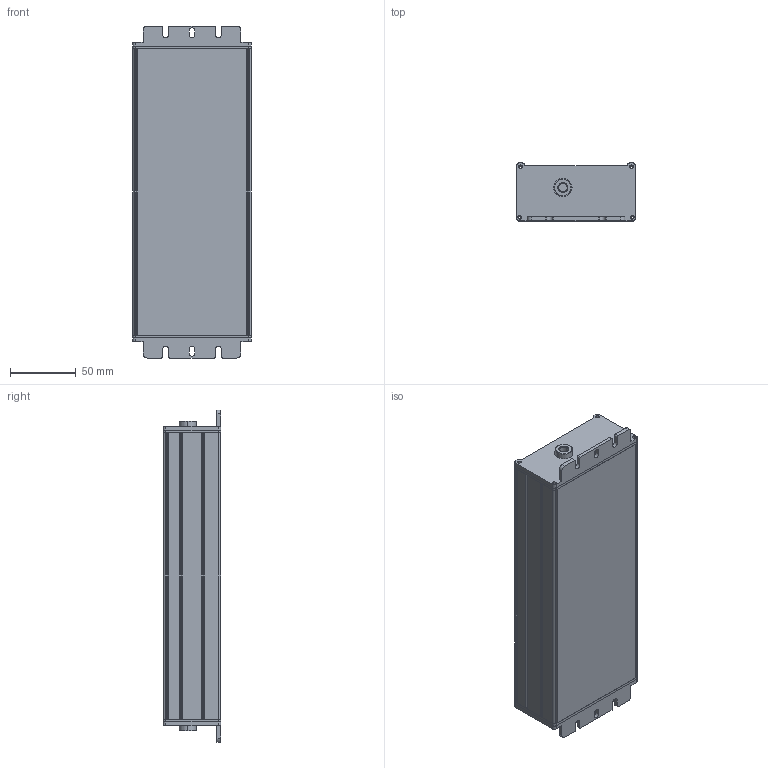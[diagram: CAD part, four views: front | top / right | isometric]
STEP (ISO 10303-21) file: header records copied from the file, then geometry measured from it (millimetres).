
FILE_DESCRIPTION((''),'2;1');
FILE_NAME('320W_BLANK_ASM','2017-03-16T',('ERIC.YP.CHEN'),(''),'PRO/ENGINEER BY PARAMETRIC TECHNOLOGY CORPORATION, 2010280','PRO/ENGINEER BY PARAMETRIC TECHNOLOGY CORPORATION, 2010280','');
FILE_SCHEMA(('AUTOMOTIVE_DESIGN { 1 2 10303 214 0 1 1 1 }'));
Length unit declared in the file: millimetre
Products named in the file (5): CHASSIS; PRT0001_; BREAKET_IN; INSULATOR; 320W_BLANK_ASM
Assembly tree (6 placements, depth 2):
  320W_BLANK_ASM
    CHASSIS
    PRT0001_  x2
    BREAKET_IN  x2
    INSULATOR
Bounding box: 90 x 43.8 x 252 mm (x, y, z)
Volume: 221627.6 mm3; surface area: 262200.8 mm2
Topology: 6 solids, 6 shells, 404 faces, 1132 edges, 744 vertices
Faces by surface type: plane 210, cylinder 170, cone 20, torus 4
Entity records: 11393 total; most frequent: CARTESIAN_POINT 1784, DIRECTION 1716, ORIENTED_EDGE 1696, EDGE_CURVE 848, AXIS2_PLACEMENT_3D 575, VECTOR 566, LINE 566, VERTEX_POINT 560
